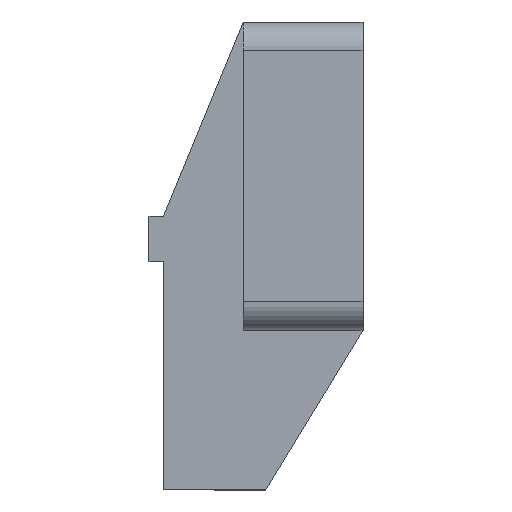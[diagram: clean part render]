
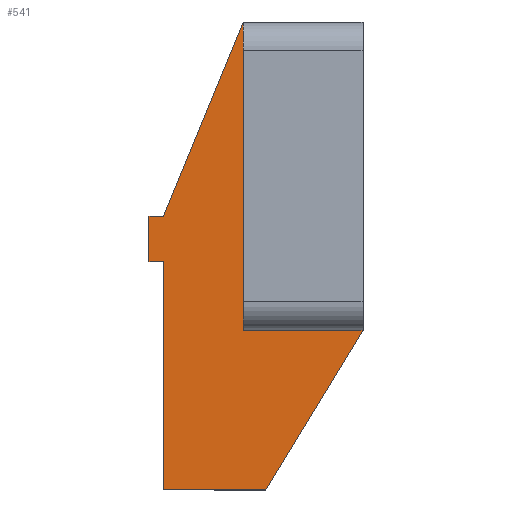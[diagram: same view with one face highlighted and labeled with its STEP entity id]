
A CAD part, left-side view. The second image highlights one B-rep face of the part: STEP entity #541.
In plain terms, the highlighted planar face has unit normal (-1, 0, 0).
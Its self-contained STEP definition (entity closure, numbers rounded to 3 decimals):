
#5 = DIRECTION ( 'NONE',  ( 0., 0., 1. ) ) ;
#8 = VECTOR ( 'NONE', #1351, 1000. ) ;
#13 = VERTEX_POINT ( 'NONE', #703 ) ;
#17 = LINE ( 'NONE', #1494, #251 ) ;
#54 = ORIENTED_EDGE ( 'NONE', *, *, #974, .T. ) ;
#73 = VECTOR ( 'NONE', #464, 1000. ) ;
#111 = LINE ( 'NONE', #683, #73 ) ;
#122 = LINE ( 'NONE', #433, #1421 ) ;
#162 = EDGE_LOOP ( 'NONE', ( #423, #1163, #476, #230, #1077, #1325, #935, #745, #54 ) ) ;
#199 = CARTESIAN_POINT ( 'NONE',  ( -107., 35., -55. ) ) ;
#204 = LINE ( 'NONE', #1242, #221 ) ;
#221 = VECTOR ( 'NONE', #1155, 1000. ) ;
#223 = VECTOR ( 'NONE', #1473, 1000. ) ;
#226 = VERTEX_POINT ( 'NONE', #1310 ) ;
#227 = DIRECTION ( 'NONE',  ( -1., 0., 0. ) ) ;
#230 = ORIENTED_EDGE ( 'NONE', *, *, #773, .T. ) ;
#235 = LINE ( 'NONE', #798, #1312 ) ;
#251 = VECTOR ( 'NONE', #945, 1000. ) ;
#275 = EDGE_CURVE ( 'NONE', #770, #226, #122, .T. ) ;
#294 = DIRECTION ( 'NONE',  ( 0., -1., 0. ) ) ;
#341 = EDGE_CURVE ( 'NONE', #1425, #493, #500, .T. ) ;
#383 = CARTESIAN_POINT ( 'NONE',  ( -107., 37.5, -7. ) ) ;
#386 = EDGE_CURVE ( 'NONE', #391, #491, #235, .T. ) ;
#391 = VERTEX_POINT ( 'NONE', #1358 ) ;
#407 = VECTOR ( 'NONE', #1422, 1000. ) ;
#423 = ORIENTED_EDGE ( 'NONE', *, *, #503, .T. ) ;
#433 = CARTESIAN_POINT ( 'NONE',  ( -107., 35., -15. ) ) ;
#464 = DIRECTION ( 'NONE',  ( 0., 0., 1. ) ) ;
#476 = ORIENTED_EDGE ( 'NONE', *, *, #1215, .T. ) ;
#491 = VERTEX_POINT ( 'NONE', #558 ) ;
#493 = VERTEX_POINT ( 'NONE', #1065 ) ;
#500 = LINE ( 'NONE', #534, #8 ) ;
#503 = EDGE_CURVE ( 'NONE', #13, #493, #17, .T. ) ;
#520 = CARTESIAN_POINT ( 'NONE',  ( -107., 37.5, -15. ) ) ;
#534 = CARTESIAN_POINT ( 'NONE',  ( -107., 21., 27. ) ) ;
#535 = EDGE_CURVE ( 'NONE', #1066, #226, #111, .T. ) ;
#541 = ADVANCED_FACE ( 'NONE', ( #1446 ), #809, .T. ) ;
#552 = CARTESIAN_POINT ( 'NONE',  ( -107., 35., -27. ) ) ;
#558 = CARTESIAN_POINT ( 'NONE',  ( -107., 17., -55. ) ) ;
#589 = VECTOR ( 'NONE', #704, 1000. ) ;
#683 = CARTESIAN_POINT ( 'NONE',  ( -107., 35., 22. ) ) ;
#692 = VERTEX_POINT ( 'NONE', #383 ) ;
#703 = CARTESIAN_POINT ( 'NONE',  ( -107., 21., -27. ) ) ;
#704 = DIRECTION ( 'NONE',  ( 0., 1., 0. ) ) ;
#745 = ORIENTED_EDGE ( 'NONE', *, *, #386, .F. ) ;
#758 = CARTESIAN_POINT ( 'NONE',  ( -107., 35., -7. ) ) ;
#770 = VERTEX_POINT ( 'NONE', #520 ) ;
#773 = EDGE_CURVE ( 'NONE', #692, #770, #1111, .T. ) ;
#798 = CARTESIAN_POINT ( 'NONE',  ( -107., 0., -27. ) ) ;
#809 = PLANE ( 'NONE',  #1132 ) ;
#855 = CARTESIAN_POINT ( 'NONE',  ( -107., 37.5, -7. ) ) ;
#935 = ORIENTED_EDGE ( 'NONE', *, *, #1069, .F. ) ;
#945 = DIRECTION ( 'NONE',  ( 0., 0., 1. ) ) ;
#974 = EDGE_CURVE ( 'NONE', #391, #13, #1105, .T. ) ;
#1065 = CARTESIAN_POINT ( 'NONE',  ( -107., 21., 27. ) ) ;
#1066 = VERTEX_POINT ( 'NONE', #199 ) ;
#1068 = CARTESIAN_POINT ( 'NONE',  ( -107., 35., -7. ) ) ;
#1069 = EDGE_CURVE ( 'NONE', #491, #1066, #204, .T. ) ;
#1077 = ORIENTED_EDGE ( 'NONE', *, *, #275, .T. ) ;
#1105 = LINE ( 'NONE', #552, #223 ) ;
#1111 = LINE ( 'NONE', #855, #407 ) ;
#1132 = AXIS2_PLACEMENT_3D ( 'NONE', #1497, #227, #5 ) ;
#1155 = DIRECTION ( 'NONE',  ( 0., 1., 0. ) ) ;
#1163 = ORIENTED_EDGE ( 'NONE', *, *, #341, .F. ) ;
#1215 = EDGE_CURVE ( 'NONE', #1425, #692, #1365, .T. ) ;
#1242 = CARTESIAN_POINT ( 'NONE',  ( -107., 35., -55. ) ) ;
#1310 = CARTESIAN_POINT ( 'NONE',  ( -107., 35., -15. ) ) ;
#1312 = VECTOR ( 'NONE', #1477, 1000. ) ;
#1325 = ORIENTED_EDGE ( 'NONE', *, *, #535, .F. ) ;
#1351 = DIRECTION ( 'NONE',  ( 0., -0.381, 0.925 ) ) ;
#1358 = CARTESIAN_POINT ( 'NONE',  ( -107., 0., -27. ) ) ;
#1365 = LINE ( 'NONE', #1068, #589 ) ;
#1421 = VECTOR ( 'NONE', #294, 1000. ) ;
#1422 = DIRECTION ( 'NONE',  ( 0., 0., -1. ) ) ;
#1425 = VERTEX_POINT ( 'NONE', #758 ) ;
#1446 = FACE_OUTER_BOUND ( 'NONE', #162, .T. ) ;
#1473 = DIRECTION ( 'NONE',  ( 0., 1., 0. ) ) ;
#1477 = DIRECTION ( 'NONE',  ( 0., 0.519, -0.855 ) ) ;
#1494 = CARTESIAN_POINT ( 'NONE',  ( -107., 21., 39.851 ) ) ;
#1497 = CARTESIAN_POINT ( 'NONE',  ( -107., 21., 39.851 ) ) ;
